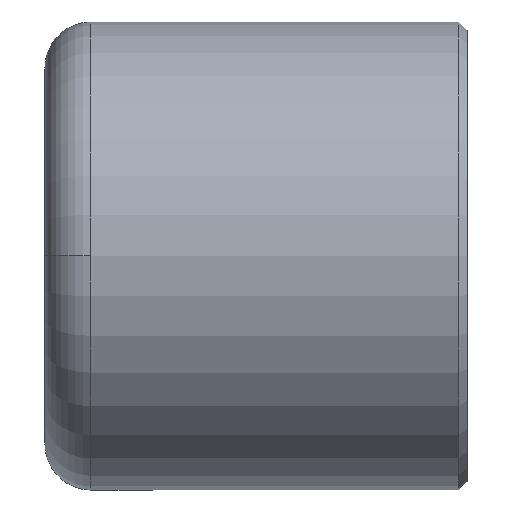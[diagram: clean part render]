
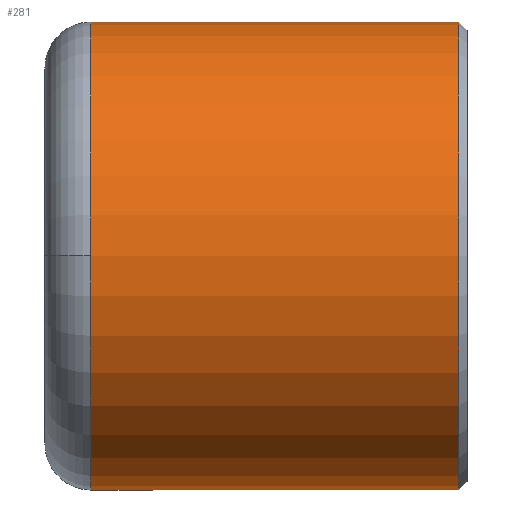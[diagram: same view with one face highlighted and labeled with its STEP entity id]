
A CAD part, top view. The second image highlights one B-rep face of the part: STEP entity #281.
In plain terms, the highlighted cylindrical face has radius 5.6 mm (diameter 11.2 mm), a partial arc.
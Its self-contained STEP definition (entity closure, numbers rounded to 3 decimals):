
#78=CARTESIAN_POINT('',(-4.25,0.,5.6));
#79=VERTEX_POINT('',#78);
#87=CARTESIAN_POINT('',(-4.25,5.6,0.0));
#88=VERTEX_POINT('',#87);
#89=CARTESIAN_POINT('',(-4.25,0.,0.0));
#90=DIRECTION('',(1.0,0.0,0.0));
#91=DIRECTION('',(0.0,1.0,0.0));
#92=AXIS2_PLACEMENT_3D('',#89,#90,#91);
#93=CIRCLE('',#92,5.6);
#94=EDGE_CURVE('',#88,#79,#93,.T.);
#241=CARTESIAN_POINT('',(0.25,0.,0.0));
#242=DIRECTION('',(1.0,0.,0.0));
#243=DIRECTION('',(0.0,1.0,0.0));
#244=AXIS2_PLACEMENT_3D('',#241,#242,#243);
#245=CYLINDRICAL_SURFACE('',#244,5.6);
#246=CARTESIAN_POINT('',(4.55,5.6,0.));
#247=VERTEX_POINT('',#246);
#248=CARTESIAN_POINT('',(-4.25,5.6,0.0));
#249=DIRECTION('',(1.0,0.0,0.0));
#250=VECTOR('',#249,8.8);
#251=LINE('',#248,#250);
#252=EDGE_CURVE('',#88,#247,#251,.T.);
#253=ORIENTED_EDGE('',*,*,#252,.F.);
#254=ORIENTED_EDGE('',*,*,#94,.T.);
#255=CARTESIAN_POINT('',(-4.25,-5.6,0.));
#256=VERTEX_POINT('',#255);
#257=CARTESIAN_POINT('',(-4.25,0.,0.0));
#258=DIRECTION('',(1.0,0.0,0.0));
#259=DIRECTION('',(0.0,1.0,0.0));
#260=AXIS2_PLACEMENT_3D('',#257,#258,#259);
#261=CIRCLE('',#260,5.6);
#262=EDGE_CURVE('',#79,#256,#261,.T.);
#263=ORIENTED_EDGE('',*,*,#262,.T.);
#264=CARTESIAN_POINT('',(4.55,-5.6,0.));
#265=VERTEX_POINT('',#264);
#266=CARTESIAN_POINT('',(4.55,-5.6,0.));
#267=DIRECTION('',(-1.0,0.0,0.0));
#268=VECTOR('',#267,8.8);
#269=LINE('',#266,#268);
#270=EDGE_CURVE('',#265,#256,#269,.T.);
#271=ORIENTED_EDGE('',*,*,#270,.F.);
#272=CARTESIAN_POINT('',(4.55,0.,0.0));
#273=DIRECTION('',(1.0,0.0,0.0));
#274=DIRECTION('',(0.0,1.0,0.0));
#275=AXIS2_PLACEMENT_3D('',#272,#273,#274);
#276=CIRCLE('',#275,5.6);
#277=EDGE_CURVE('',#247,#265,#276,.T.);
#278=ORIENTED_EDGE('',*,*,#277,.F.);
#279=EDGE_LOOP('',(#253,#254,#263,#271,#278));
#280=FACE_OUTER_BOUND('',#279,.T.);
#281=ADVANCED_FACE('',(#280),#245,.T.);
